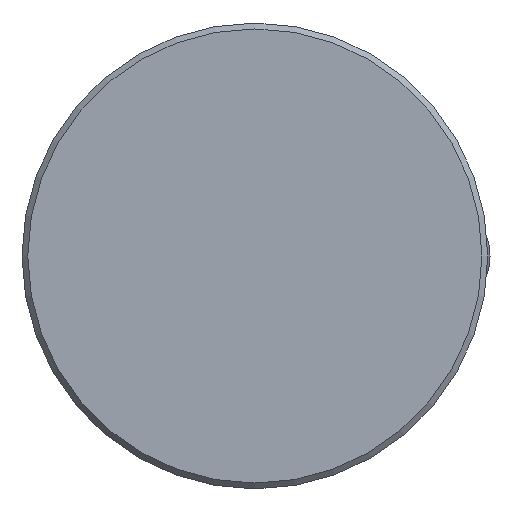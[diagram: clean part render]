
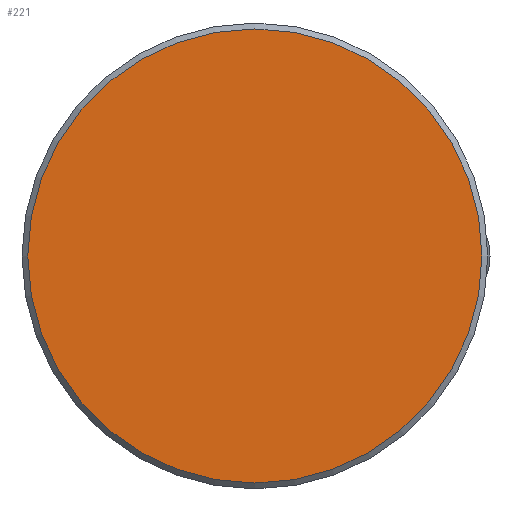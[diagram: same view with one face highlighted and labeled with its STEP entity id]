
A CAD part, front view. The second image highlights one B-rep face of the part: STEP entity #221.
In plain terms, the highlighted planar face has unit normal (0, -1, 0).
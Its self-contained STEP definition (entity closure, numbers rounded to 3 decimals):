
#221 = ADVANCED_FACE( '', ( #422 ), #423, .F. );
#422 = FACE_OUTER_BOUND( '', #604, .T. );
#423 = PLANE( '', #605 );
#604 = EDGE_LOOP( '', ( #956 ) );
#605 = AXIS2_PLACEMENT_3D( '', #957, #958, #959 );
#956 = ORIENTED_EDGE( '', *, *, #1119, .T. );
#957 = CARTESIAN_POINT( '', ( 19.5, 0., 0. ) );
#958 = DIRECTION( '', ( 0., 1., 0. ) );
#959 = DIRECTION( '', ( 0., 0., 1. ) );
#1119 = EDGE_CURVE( '', #1310, #1310, #1311, .T. );
#1310 = VERTEX_POINT( '', #1767 );
#1311 = CIRCLE( '', #1768, 19.5 );
#1767 = CARTESIAN_POINT( '', ( 0., 0., -19.5 ) );
#1768 = AXIS2_PLACEMENT_3D( '', #1909, #1910, #1911 );
#1909 = CARTESIAN_POINT( '', ( 0., 0., 0. ) );
#1910 = DIRECTION( '', ( 0., -1., 0. ) );
#1911 = DIRECTION( '', ( 0., 0., -1. ) );
